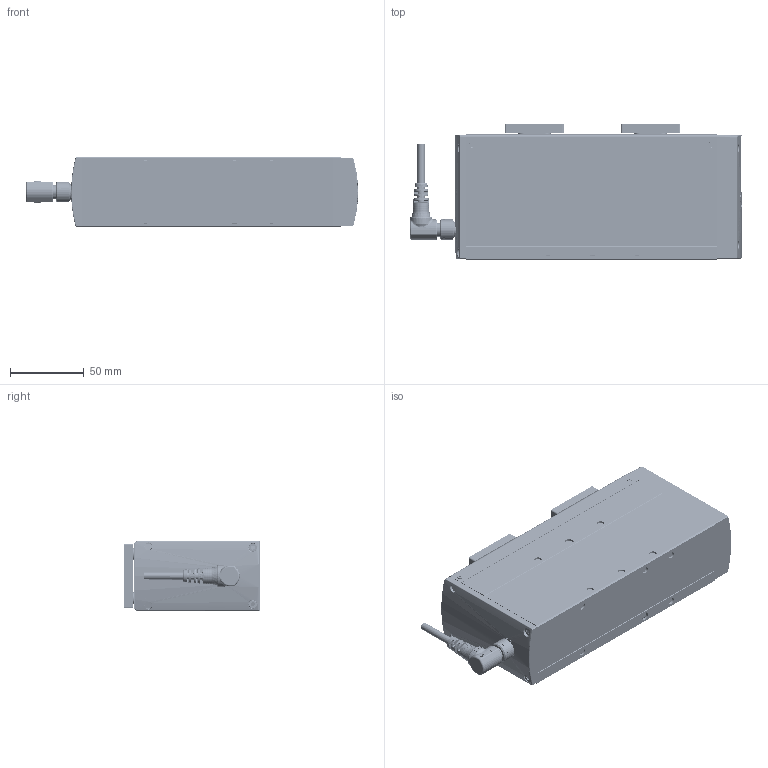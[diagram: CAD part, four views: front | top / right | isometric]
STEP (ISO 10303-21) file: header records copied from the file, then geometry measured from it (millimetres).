
FILE_DESCRIPTION(/* description */ ('STEP AP203'),/* implementation_level */ '2;1');
FILE_NAME(/* name */ 'D:\2025.02.25 帶電匯整給泊舟\3. CHS2系列\4.3D組立\CHS2B-S68-WM.stp',/* time_stamp */ '2025-02-25T18:04:45+08:00',/* author */ ('T10033'),/* organization */ (''),/* preprocessor_version */ 'ST-DEVELOPER v18.1',/* originating_system */ 'Autodesk Inventor 2020',/* authorisation */ '');
FILE_SCHEMA (('CONFIG_CONTROL_DESIGN'));
Products named in the file (9): CHS2B-S68; 12003-000234-02; 12004-000155-02; 22012-000358_M512內六角; 22012-001390_M2.5L16內六角; 22012-000311_M3L6內六角; 慶陞M12金屬頭; 52 5TW3E4_Shrinkwrap_1; M12-14PIN 線端90度接頭-05中繼線
Assembly tree (20 placements, depth 2):
  CHS2B-S68
    12003-000234-02
    12004-000155-02  x2
    22012-000358_M512內六角  x8
    22012-001390_M2.5L16內六角  x4
    22012-000311_M3L6內六角  x2
    慶陞M12金屬頭
    52 5TW3E4_Shrinkwrap_1
    M12-14PIN 線端90度接頭-05中繼線
Bounding box: 224.77 x 92 x 48 mm (x, y, z)
Volume: 782598.5 mm3; surface area: 97961.1 mm2
Topology: 34 solids, 39 shells, 3048 faces, 8965 edges, 6135 vertices
Faces by surface type: plane 1245, cone 800, cylinder 720, bspline 165, torus 114, sphere 4
Full cylindrical faces by diameter (mm): 0.6 x14, 0.65 x14, 1 x14, 1.5 x1, 1.6 x2, 2.05 x2, 2.5 x137, 3 x20, 3.5 x4, 3.8 x4, 4.2 x8, 4.5 x4, 5 x128, 5.2 x8, 5.5 x2, 8 x1, 8.5 x8, 8.9 x1, 9 x8, 9.5 x2, 9.6 x1, 10.5 x2, 10.9 x1, 11 x2, 11.2 x1, 11.25 x1, 12 x1, 12.5 x1, 13 x1, 13.8 x1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
Entity records: 100218 total; most frequent: CARTESIAN_POINT 40848, ORIENTED_EDGE 12152, DIRECTION 12081, EDGE_CURVE 6094, AXIS2_PLACEMENT_3D 4599, VERTEX_POINT 4107, LINE 2883, VECTOR 2883
